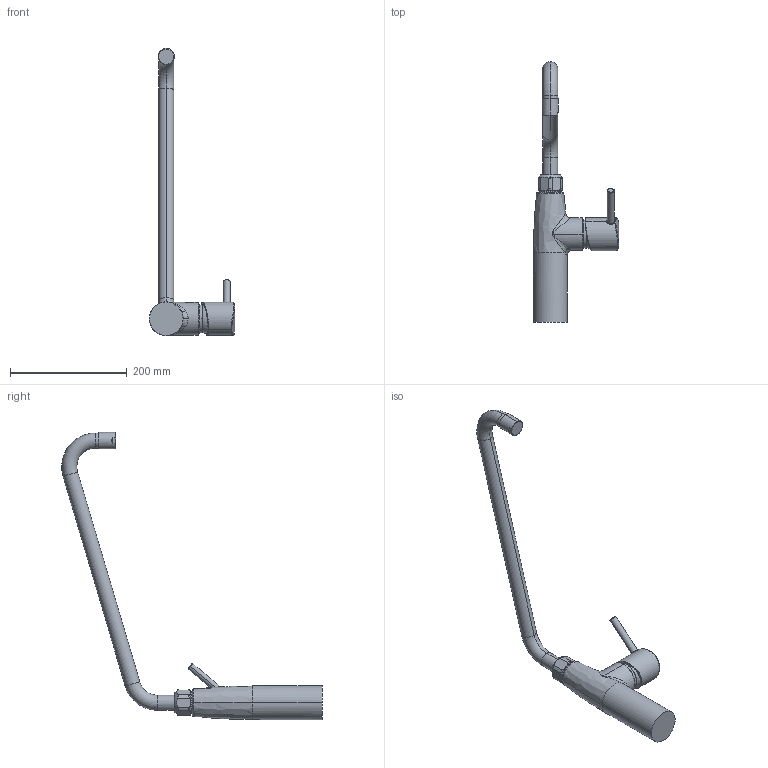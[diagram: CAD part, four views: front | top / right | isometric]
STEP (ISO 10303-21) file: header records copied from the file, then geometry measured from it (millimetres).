
FILE_DESCRIPTION((''),'2;1');
FILE_NAME('24_501_056_XXX','2012-01-03T',('HEF'),(''),'PRO/ENGINEER BY PARAMETRIC TECHNOLOGY CORPORATION, 2011080','PRO/ENGINEER BY PARAMETRIC TECHNOLOGY CORPORATION, 2011080','');
FILE_SCHEMA(('AUTOMOTIVE_DESIGN_CC2 { 1 2 10303 214 -1 1 5 2 }'));
Length unit declared in the file: millimetre
Products named in the file (1): 24_501_056_XXX
Bounding box: 146.24 x 447.08 x 492.94 mm (x, y, z)
Volume: 1135625.5 mm3; surface area: 114916.3 mm2
Topology: 1 solids, 1 shells, 101 faces, 237 edges, 143 vertices
Faces by surface type: torus 31, cylinder 29, plane 18, bspline 14, cone 8, sphere 1
Entity records: 6103 total; most frequent: CARTESIAN_POINT 2818, ORIENTED_EDGE 474, DIRECTION 459, EDGE_CURVE 237, AXIS2_PLACEMENT_3D 206, FILL_AREA_STYLE_COLOUR 163, FILL_AREA_STYLE 163, SURFACE_STYLE_FILL_AREA 163
